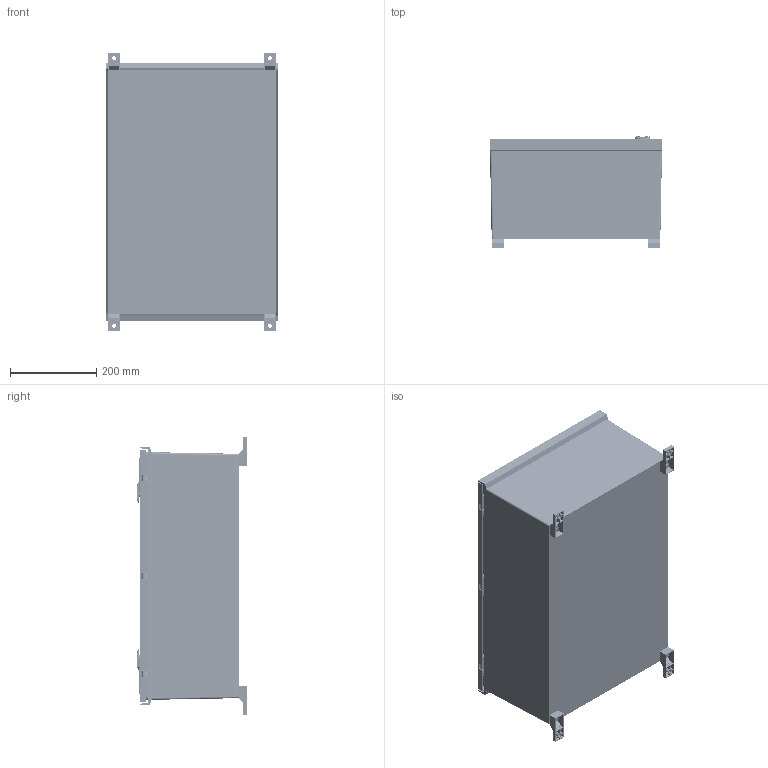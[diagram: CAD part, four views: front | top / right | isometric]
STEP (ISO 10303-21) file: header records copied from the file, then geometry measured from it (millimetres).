
FILE_DESCRIPTION (( 'STEP AP203' ), '1' );
FILE_NAME ('CN5N0649 simple.STEP', '2026-07-14T10:33:08', ( '' ), ( '' ), 'SwSTEP 2.0', 'SolidWorks 2022', '' );
FILE_SCHEMA (( 'CONFIG_CONTROL_DESIGN' ));
Products named in the file (1): CN5N0649 simple
Bounding box: 400.66 x 257.44 x 645.7 mm (x, y, z)
Volume: 3153943.2 mm3; surface area: 2109266.3 mm2
Topology: 61 solids, 65 shells, 10890 faces, 27100 edges, 16842 vertices
Faces by surface type: plane 5747, cylinder 2546, cone 1016, bspline 937, torus 363, sphere 281
Entity records: 435744 total; most frequent: CARTESIAN_POINT 187484, ORIENTED_EDGE 53400, DIRECTION 47340, EDGE_CURVE 26700, VERTEX_POINT 16837, LINE 16636, VECTOR 16636, AXIS2_PLACEMENT_3D 15352
